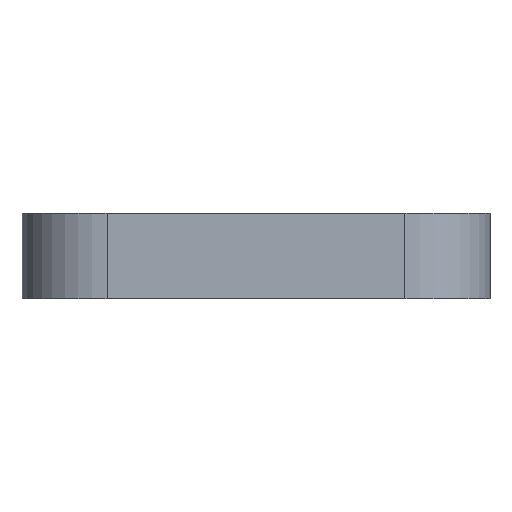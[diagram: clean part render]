
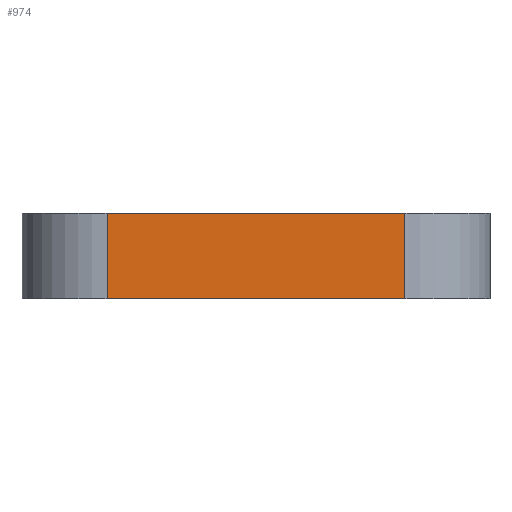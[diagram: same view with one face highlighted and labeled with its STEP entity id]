
A CAD part, front view. The second image highlights one B-rep face of the part: STEP entity #974.
In plain terms, the highlighted planar face has unit normal (0, -1, 0).
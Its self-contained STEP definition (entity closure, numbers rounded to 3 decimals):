
#44 = PLANE('',#45);
#45 = AXIS2_PLACEMENT_3D('',#46,#47,#48);
#46 = CARTESIAN_POINT('',(-22.,-48.,130.));
#47 = DIRECTION('',(0.,0.,1.));
#48 = DIRECTION('',(1.,0.,0.));
#72 = CYLINDRICAL_SURFACE('',#73,8.);
#73 = AXIS2_PLACEMENT_3D('',#74,#75,#76);
#74 = CARTESIAN_POINT('',(-14.,-40.,122.));
#75 = DIRECTION('',(0.,0.,1.));
#76 = DIRECTION('',(-1.,-0.,0.));
#100 = PLANE('',#101);
#101 = AXIS2_PLACEMENT_3D('',#102,#103,#104);
#102 = CARTESIAN_POINT('',(-22.,-48.,122.));
#103 = DIRECTION('',(0.,0.,1.));
#104 = DIRECTION('',(1.,0.,0.));
#143 = VERTEX_POINT('',#144);
#144 = CARTESIAN_POINT('',(-14.,-48.,130.));
#166 = EDGE_CURVE('',#143,#167,#169,.T.);
#167 = VERTEX_POINT('',#168);
#168 = CARTESIAN_POINT('',(14.,-48.,130.));
#169 = SURFACE_CURVE('',#170,(#174,#181),.PCURVE_S1.);
#170 = LINE('',#171,#172);
#171 = CARTESIAN_POINT('',(-22.,-48.,130.));
#172 = VECTOR('',#173,1.);
#173 = DIRECTION('',(1.,0.,0.));
#174 = PCURVE('',#44,#175);
#175 = DEFINITIONAL_REPRESENTATION('',(#176),#180);
#176 = LINE('',#177,#178);
#177 = CARTESIAN_POINT('',(0.,0.));
#178 = VECTOR('',#179,1.);
#179 = DIRECTION('',(1.,0.));
#180 = ( GEOMETRIC_REPRESENTATION_CONTEXT(2) 
PARAMETRIC_REPRESENTATION_CONTEXT() REPRESENTATION_CONTEXT('2D SPACE',''
  ) );
#181 = PCURVE('',#182,#187);
#182 = PLANE('',#183);
#183 = AXIS2_PLACEMENT_3D('',#184,#185,#186);
#184 = CARTESIAN_POINT('',(-22.,-48.,122.));
#185 = DIRECTION('',(0.,1.,0.));
#186 = DIRECTION('',(0.,0.,1.));
#187 = DEFINITIONAL_REPRESENTATION('',(#188),#192);
#188 = LINE('',#189,#190);
#189 = CARTESIAN_POINT('',(8.,0.));
#190 = VECTOR('',#191,1.);
#191 = DIRECTION('',(0.,1.));
#192 = ( GEOMETRIC_REPRESENTATION_CONTEXT(2) 
PARAMETRIC_REPRESENTATION_CONTEXT() REPRESENTATION_CONTEXT('2D SPACE',''
  ) );
#215 = CYLINDRICAL_SURFACE('',#216,8.);
#216 = AXIS2_PLACEMENT_3D('',#217,#218,#219);
#217 = CARTESIAN_POINT('',(14.,-40.,122.));
#218 = DIRECTION('',(0.,0.,1.));
#219 = DIRECTION('',(1.,0.,-0.));
#566 = VERTEX_POINT('',#567);
#567 = CARTESIAN_POINT('',(-14.,-48.,122.));
#589 = EDGE_CURVE('',#566,#143,#590,.T.);
#590 = SURFACE_CURVE('',#591,(#595,#602),.PCURVE_S1.);
#591 = LINE('',#592,#593);
#592 = CARTESIAN_POINT('',(-14.,-48.,122.));
#593 = VECTOR('',#594,1.);
#594 = DIRECTION('',(0.,0.,1.));
#595 = PCURVE('',#72,#596);
#596 = DEFINITIONAL_REPRESENTATION('',(#597),#601);
#597 = LINE('',#598,#599);
#598 = CARTESIAN_POINT('',(1.571,0.));
#599 = VECTOR('',#600,1.);
#600 = DIRECTION('',(0.,1.));
#601 = ( GEOMETRIC_REPRESENTATION_CONTEXT(2) 
PARAMETRIC_REPRESENTATION_CONTEXT() REPRESENTATION_CONTEXT('2D SPACE',''
  ) );
#602 = PCURVE('',#182,#603);
#603 = DEFINITIONAL_REPRESENTATION('',(#604),#608);
#604 = LINE('',#605,#606);
#605 = CARTESIAN_POINT('',(0.,8.));
#606 = VECTOR('',#607,1.);
#607 = DIRECTION('',(1.,0.));
#608 = ( GEOMETRIC_REPRESENTATION_CONTEXT(2) 
PARAMETRIC_REPRESENTATION_CONTEXT() REPRESENTATION_CONTEXT('2D SPACE',''
  ) );
#671 = EDGE_CURVE('',#566,#672,#674,.T.);
#672 = VERTEX_POINT('',#673);
#673 = CARTESIAN_POINT('',(14.,-48.,122.));
#674 = SURFACE_CURVE('',#675,(#679,#686),.PCURVE_S1.);
#675 = LINE('',#676,#677);
#676 = CARTESIAN_POINT('',(-22.,-48.,122.));
#677 = VECTOR('',#678,1.);
#678 = DIRECTION('',(1.,0.,0.));
#679 = PCURVE('',#100,#680);
#680 = DEFINITIONAL_REPRESENTATION('',(#681),#685);
#681 = LINE('',#682,#683);
#682 = CARTESIAN_POINT('',(0.,0.));
#683 = VECTOR('',#684,1.);
#684 = DIRECTION('',(1.,0.));
#685 = ( GEOMETRIC_REPRESENTATION_CONTEXT(2) 
PARAMETRIC_REPRESENTATION_CONTEXT() REPRESENTATION_CONTEXT('2D SPACE',''
  ) );
#686 = PCURVE('',#182,#687);
#687 = DEFINITIONAL_REPRESENTATION('',(#688),#692);
#688 = LINE('',#689,#690);
#689 = CARTESIAN_POINT('',(0.,0.));
#690 = VECTOR('',#691,1.);
#691 = DIRECTION('',(0.,1.));
#692 = ( GEOMETRIC_REPRESENTATION_CONTEXT(2) 
PARAMETRIC_REPRESENTATION_CONTEXT() REPRESENTATION_CONTEXT('2D SPACE',''
  ) );
#974 = ADVANCED_FACE('',(#975),#182,.F.);
#975 = FACE_BOUND('',#976,.F.);
#976 = EDGE_LOOP('',(#977,#978,#979,#980));
#977 = ORIENTED_EDGE('',*,*,#671,.F.);
#978 = ORIENTED_EDGE('',*,*,#589,.T.);
#979 = ORIENTED_EDGE('',*,*,#166,.T.);
#980 = ORIENTED_EDGE('',*,*,#981,.F.);
#981 = EDGE_CURVE('',#672,#167,#982,.T.);
#982 = SURFACE_CURVE('',#983,(#987,#994),.PCURVE_S1.);
#983 = LINE('',#984,#985);
#984 = CARTESIAN_POINT('',(14.,-48.,122.));
#985 = VECTOR('',#986,1.);
#986 = DIRECTION('',(0.,0.,1.));
#987 = PCURVE('',#182,#988);
#988 = DEFINITIONAL_REPRESENTATION('',(#989),#993);
#989 = LINE('',#990,#991);
#990 = CARTESIAN_POINT('',(0.,36.));
#991 = VECTOR('',#992,1.);
#992 = DIRECTION('',(1.,0.));
#993 = ( GEOMETRIC_REPRESENTATION_CONTEXT(2) 
PARAMETRIC_REPRESENTATION_CONTEXT() REPRESENTATION_CONTEXT('2D SPACE',''
  ) );
#994 = PCURVE('',#215,#995);
#995 = DEFINITIONAL_REPRESENTATION('',(#996),#1000);
#996 = LINE('',#997,#998);
#997 = CARTESIAN_POINT('',(-1.571,0.));
#998 = VECTOR('',#999,1.);
#999 = DIRECTION('',(-0.,1.));
#1000 = ( GEOMETRIC_REPRESENTATION_CONTEXT(2) 
PARAMETRIC_REPRESENTATION_CONTEXT() REPRESENTATION_CONTEXT('2D SPACE',''
  ) );
